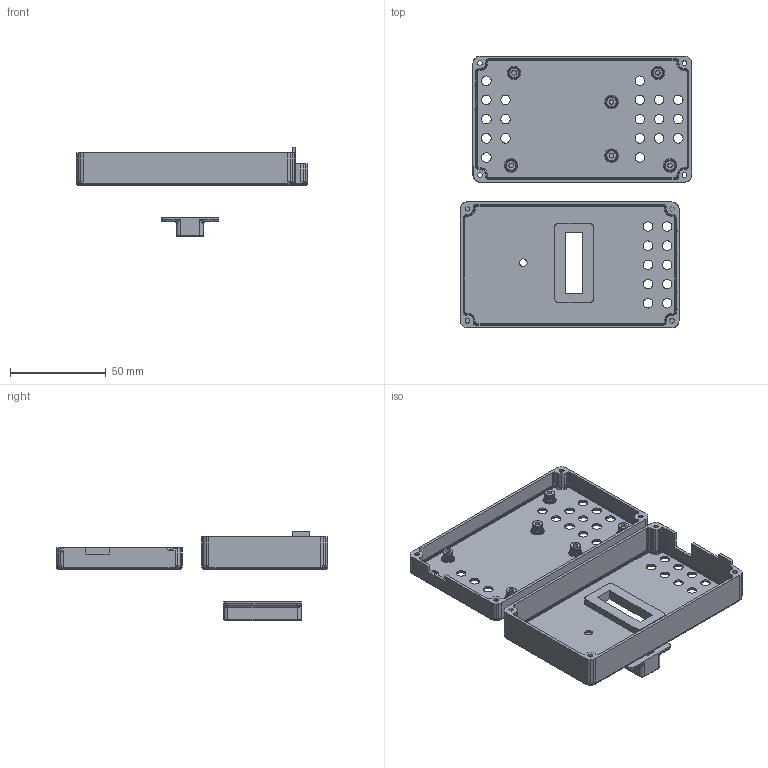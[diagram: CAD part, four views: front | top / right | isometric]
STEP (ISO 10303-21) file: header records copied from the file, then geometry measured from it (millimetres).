
FILE_DESCRIPTION(/* description */ (''),/* implementation_level */ '2;1');
FILE_NAME(/* name */ 'E:/Pilot/OneDrive/3D Objects/Robots/iCybieProgrammer/CartridgeProgrammer.stp',/* time_stamp */ '2024-01-25T13:53:51-06:00',/* author */ (''),/* organization */ (''),/* preprocessor_version */ 'ST-DEVELOPER v15.2',/* originating_system */ 'Autodesk Translator Framework v2.0.0.5431',/* authorisation */ '');
FILE_SCHEMA (('AUTOMOTIVE_DESIGN { 1 0 10303 214 3 1 1 }'));
Products named in the file (1): iCybieProgrammer
Bounding box: 120.49 x 141.63 x 46.8 mm (x, y, z)
Volume: 44726.6 mm3; surface area: 51971.1 mm2
Topology: 3 solids, 3 shells, 20602 faces, 36304 edges, 15721 vertices
Faces by surface type: plane 20538, cylinder 28, bspline 20, torus 12, cone 4
Full cylindrical faces by diameter (mm): 2.2 x4
Entity records: 453878 total; most frequent: DIRECTION 77478, CARTESIAN_POINT 76041, ORIENTED_EDGE 72584, EDGE_CURVE 36292, LINE 36168, VECTOR 36168, EDGE_LOOP 20707, AXIS2_PLACEMENT_3D 20655
